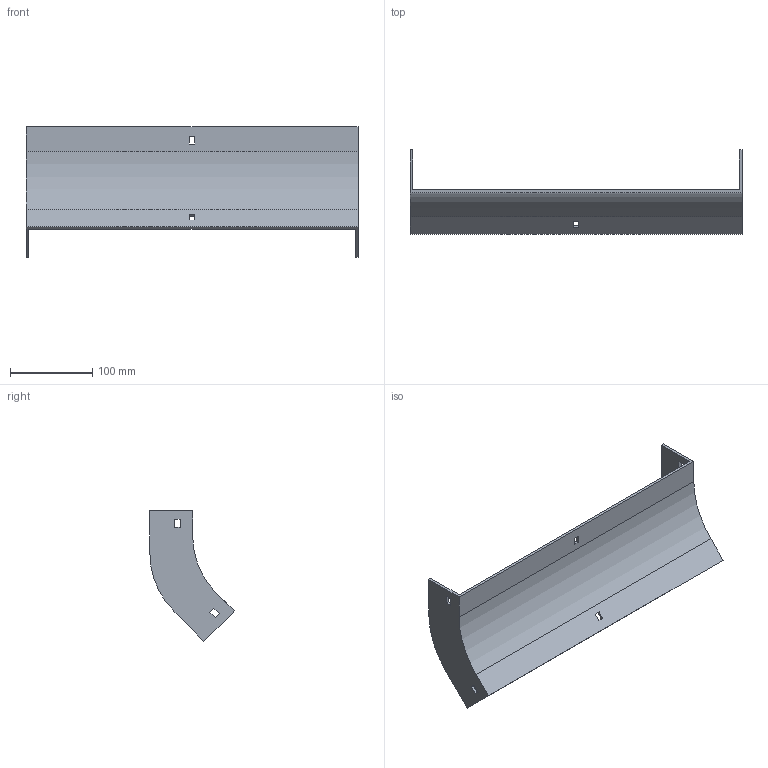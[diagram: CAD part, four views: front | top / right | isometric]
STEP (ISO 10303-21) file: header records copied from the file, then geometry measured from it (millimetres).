
FILE_DESCRIPTION (( 'STEP AP214' ), '1' );
FILE_NAME ('34F1B400.step', '2025-02-21T12:51:02', ( '' ), ( '' ), 'SwSTEP 2.0', 'SolidWorks 2023', '' );
FILE_SCHEMA (( 'AUTOMOTIVE_DESIGN' ));
Length unit declared in the file: millimetre
Products named in the file (1): 34F1B400
Bounding box: 404 x 102.5 x 158.69 mm (x, y, z)
Volume: 252856.4 mm3; surface area: 149951 mm2
Topology: 1 solids, 1 shells, 42 faces, 120 edges, 80 vertices
Faces by surface type: plane 38, cylinder 4
Entity records: 1399 total; most frequent: CARTESIAN_POINT 243, ORIENTED_EDGE 240, DIRECTION 214, EDGE_CURVE 120, VECTOR 112, LINE 112, VERTEX_POINT 80, EDGE_LOOP 54
